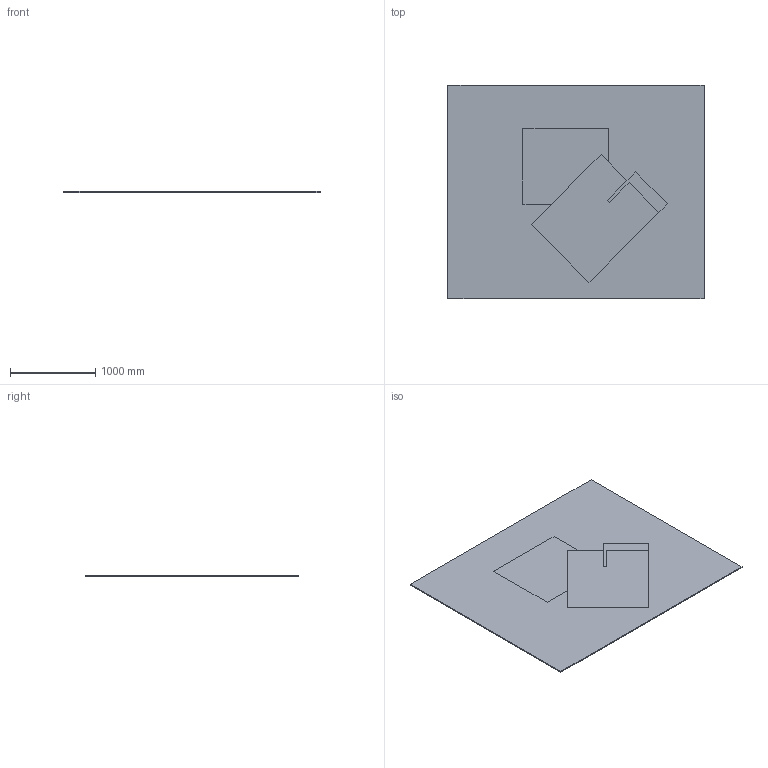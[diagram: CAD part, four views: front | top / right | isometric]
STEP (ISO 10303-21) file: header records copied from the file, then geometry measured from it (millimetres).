
FILE_DESCRIPTION(/* description */ (''),/* implementation_level */ '2;1');
FILE_NAME(/* name */ 'Castellar-Rug_300x250_3D_20231017',/* time_stamp */ '2023-10-17T12:01:08+02:00',/* author */ (''),/* organization */ (''),/* preprocessor_version */ 'ST-DEVELOPER v16.5',/* originating_system */ 'Rhino 7.34',/* authorisation */ '');
FILE_SCHEMA (('CONFIG_CONTROL_DESIGN'));
Length unit declared in the file: millimetre
Products named in the file (1): Document
Bounding box: 3000 x 2500 x 12 mm (x, y, z)
Volume: 90055128.6 mm3; surface area: 15331563.5 mm2
Topology: 4 solids, 4 shells, 47 faces, 117 edges, 78 vertices
Faces by surface type: plane 47
Entity records: 1293 total; most frequent: CARTESIAN_POINT 363, ORIENTED_EDGE 234, EDGE_CURVE 117, B_SPLINE_CURVE_WITH_KNOTS 117, VERTEX_POINT 78, DIRECTION 51, EDGE_LOOP 49, AXIS2_PLACEMENT_3D 49
